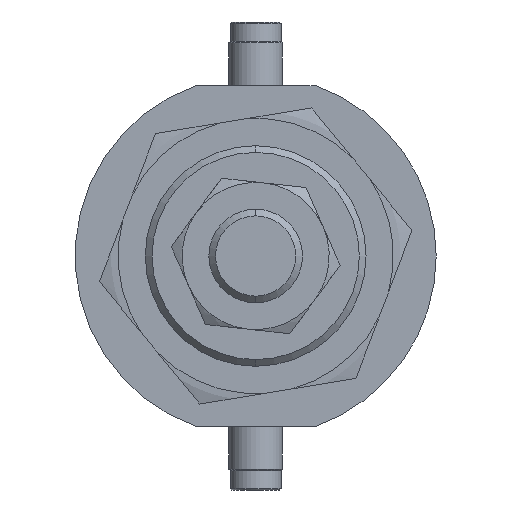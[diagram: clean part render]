
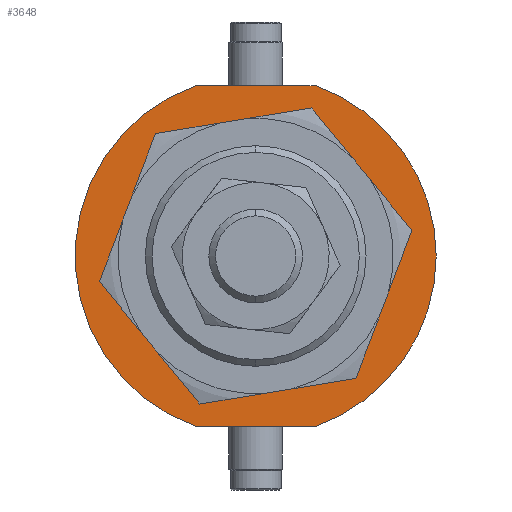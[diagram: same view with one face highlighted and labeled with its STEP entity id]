
A CAD part, left-side view. The second image highlights one B-rep face of the part: STEP entity #3648.
In plain terms, the highlighted planar face has unit normal (-1, 0, 0) as drawn and (0, 1, 0) by its records, which use the part's own axes.
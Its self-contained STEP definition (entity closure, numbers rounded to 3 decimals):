
#26 = EDGE_CURVE ( 'NONE', #2818, #2446, #4927, .T. ) ;
#84 = DIRECTION ( 'NONE',  ( 0., 1., 0. ) ) ;
#133 = VERTEX_POINT ( 'NONE', #1726 ) ;
#161 = ORIENTED_EDGE ( 'NONE', *, *, #26, .T. ) ;
#164 = EDGE_LOOP ( 'NONE', ( #4843, #161, #219, #1777, #4586 ) ) ;
#217 = DIRECTION ( 'NONE',  ( 0., 0., -1. ) ) ;
#219 = ORIENTED_EDGE ( 'NONE', *, *, #2076, .T. ) ;
#288 = AXIS2_PLACEMENT_3D ( 'NONE', #2094, #84, #2742 ) ;
#323 = DIRECTION ( 'NONE',  ( 0., 0., 1. ) ) ;
#452 = CARTESIAN_POINT ( 'NONE',  ( 0., 4.5, -16.5 ) ) ;
#630 = DIRECTION ( 'NONE',  ( 0., 0., 1. ) ) ;
#668 = CARTESIAN_POINT ( 'NONE',  ( -25.5, 4.5, 8.874 ) ) ;
#878 = VERTEX_POINT ( 'NONE', #2165 ) ;
#919 = FACE_OUTER_BOUND ( 'NONE', #164, .T. ) ;
#954 = AXIS2_PLACEMENT_3D ( 'NONE', #2852, #3406, #3227 ) ;
#1010 = PLANE ( 'NONE',  #288 ) ;
#1535 = VERTEX_POINT ( 'NONE', #452 ) ;
#1595 = DIRECTION ( 'NONE',  ( 0., 1., 0. ) ) ;
#1720 = EDGE_LOOP ( 'NONE', ( #5015, #2557 ) ) ;
#1726 = CARTESIAN_POINT ( 'NONE',  ( 0., 4.5, 27. ) ) ;
#1771 = VECTOR ( 'NONE', #217, 1000. ) ;
#1777 = ORIENTED_EDGE ( 'NONE', *, *, #5253, .T. ) ;
#1894 = DIRECTION ( 'NONE',  ( 0., 0., 1. ) ) ;
#2009 = FACE_BOUND ( 'NONE', #1720, .T. ) ;
#2076 = EDGE_CURVE ( 'NONE', #2446, #133, #5087, .T. ) ;
#2094 = CARTESIAN_POINT ( 'NONE',  ( 0., 4.5, 0. ) ) ;
#2165 = CARTESIAN_POINT ( 'NONE',  ( 25.5, 4.5, -8.874 ) ) ;
#2231 = CARTESIAN_POINT ( 'NONE',  ( 0., 4.5, 16.5 ) ) ;
#2270 = DIRECTION ( 'NONE',  ( 0., 1., 0. ) ) ;
#2372 = AXIS2_PLACEMENT_3D ( 'NONE', #5175, #2801, #323 ) ;
#2446 = VERTEX_POINT ( 'NONE', #668 ) ;
#2557 = ORIENTED_EDGE ( 'NONE', *, *, #4177, .F. ) ;
#2706 = AXIS2_PLACEMENT_3D ( 'NONE', #3188, #2270, #4763 ) ;
#2742 = DIRECTION ( 'NONE',  ( 0., 0., 1. ) ) ;
#2801 = DIRECTION ( 'NONE',  ( 0., 1., 0. ) ) ;
#2818 = VERTEX_POINT ( 'NONE', #4356 ) ;
#2852 = CARTESIAN_POINT ( 'NONE',  ( 0., 4.5, 0. ) ) ;
#3048 = AXIS2_PLACEMENT_3D ( 'NONE', #5345, #1595, #5342 ) ;
#3147 = CIRCLE ( 'NONE', #954, 27. ) ;
#3188 = CARTESIAN_POINT ( 'NONE',  ( 0., 4.5, 0. ) ) ;
#3227 = DIRECTION ( 'NONE',  ( 0., 0., 1. ) ) ;
#3406 = DIRECTION ( 'NONE',  ( 0., 1., 0. ) ) ;
#3502 = VECTOR ( 'NONE', #1894, 1000. ) ;
#3648 = ADVANCED_FACE ( 'NONE', ( #2009, #919 ), #1010, .T. ) ;
#3693 = LINE ( 'NONE', #5167, #1771 ) ;
#3708 = CIRCLE ( 'NONE', #2706, 16.5 ) ;
#3908 = VERTEX_POINT ( 'NONE', #4481 ) ;
#4161 = DIRECTION ( 'NONE',  ( 0., 1., 0. ) ) ;
#4177 = EDGE_CURVE ( 'NONE', #1535, #4285, #3708, .T. ) ;
#4285 = VERTEX_POINT ( 'NONE', #2231 ) ;
#4356 = CARTESIAN_POINT ( 'NONE',  ( -25.5, 4.5, -8.874 ) ) ;
#4481 = CARTESIAN_POINT ( 'NONE',  ( 25.5, 4.5, 8.874 ) ) ;
#4574 = EDGE_CURVE ( 'NONE', #878, #2818, #4599, .T. ) ;
#4586 = ORIENTED_EDGE ( 'NONE', *, *, #5513, .T. ) ;
#4599 = CIRCLE ( 'NONE', #5062, 27. ) ;
#4763 = DIRECTION ( 'NONE',  ( 0., 0., 1. ) ) ;
#4840 = CARTESIAN_POINT ( 'NONE',  ( -25.5, 4.5, -8.874 ) ) ;
#4843 = ORIENTED_EDGE ( 'NONE', *, *, #4574, .T. ) ;
#4927 = LINE ( 'NONE', #4840, #3502 ) ;
#5015 = ORIENTED_EDGE ( 'NONE', *, *, #5503, .F. ) ;
#5062 = AXIS2_PLACEMENT_3D ( 'NONE', #5374, #4161, #630 ) ;
#5087 = CIRCLE ( 'NONE', #2372, 27. ) ;
#5167 = CARTESIAN_POINT ( 'NONE',  ( 25.5, 4.5, -8.874 ) ) ;
#5175 = CARTESIAN_POINT ( 'NONE',  ( 0., 4.5, 0. ) ) ;
#5253 = EDGE_CURVE ( 'NONE', #133, #3908, #3147, .T. ) ;
#5320 = CIRCLE ( 'NONE', #3048, 16.5 ) ;
#5342 = DIRECTION ( 'NONE',  ( 0., 0., 1. ) ) ;
#5345 = CARTESIAN_POINT ( 'NONE',  ( 0., 4.5, 0. ) ) ;
#5374 = CARTESIAN_POINT ( 'NONE',  ( 0., 4.5, 0. ) ) ;
#5503 = EDGE_CURVE ( 'NONE', #4285, #1535, #5320, .T. ) ;
#5513 = EDGE_CURVE ( 'NONE', #3908, #878, #3693, .T. ) ;
